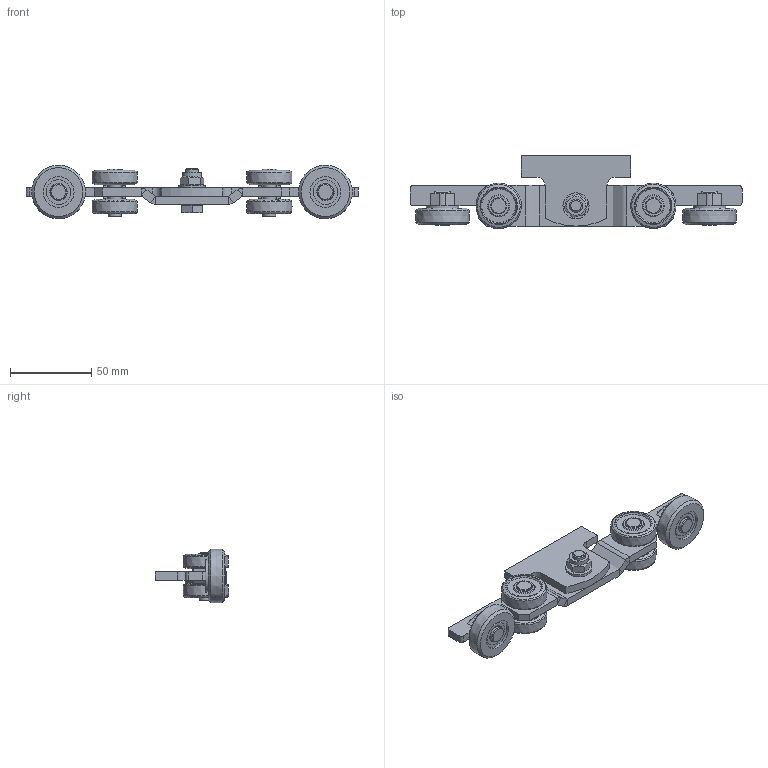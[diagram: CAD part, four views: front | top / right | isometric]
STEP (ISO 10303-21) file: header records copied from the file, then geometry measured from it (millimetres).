
FILE_DESCRIPTION(/* description */ ('Brennteil'),/* implementation_level */ '2;1');
FILE_NAME(/* name */ 'Q:\sge-ma\Produktmanagement-STB\STB\Workspace\stp\010337930.stp',/* time_stamp */ '2016-07-14T15:54:34+02:00',/* author */ ('avschreier'),/* organization */ (''),/* preprocessor_version */ 'ST-DEVELOPER v16.1',/* originating_system */ 'Autodesk Inventor 2016',/* authorisation */ '');
FILE_SCHEMA (('AUTOMOTIVE_DESIGN { 1 0 10303 214 3 1 1 }'));
Length unit declared in the file: millimetre
Products named in the file (17): 000302048; 336300010_Schweißnähte; 337000120; 000302052; 000302000; 337000281; DIN_625-6000_ZZ_en; 000302001; DIN_EN_ISO_7090-10,5_en; 336300010; DIN_EN_ISO_7090-8,4_en; DIN_EN_ISO_7040-M8_en; DIN_EN_ISO_4017-M8x22_en; 336290010; 000304011; 000303235; 010337930
Assembly tree (27 placements, depth 4):
  010337930
    000302048
    336300010
      336300010_Schweißnähte
      337000120
      000302052  x2
      000302000  x2
      000302001  x2
        337000281
        DIN_625-6000_ZZ_en
      DIN_EN_ISO_7090-10,5_en  x2
    DIN_EN_ISO_7090-8,4_en
    DIN_EN_ISO_7040-M8_en
    DIN_EN_ISO_4017-M8x22_en
    336290010  x4
    000304011  x2
    000303235  x4
Bounding box: 204 x 44.98 x 32.97 mm (x, y, z)
Volume: 67619.2 mm3; surface area: 44863.6 mm2
Topology: 29 solids, 31 shells, 571 faces, 1369 edges, 868 vertices
Faces by surface type: plane 315, cylinder 90, cone 66, bspline 46, torus 42, sphere 12
Full cylindrical faces by diameter (mm): 6.647 x1, 7.323 x1, 8 x7, 8.1 x1, 8.3 x1, 8.4 x1, 9.9 x2, 10 x4, 10.5 x2, 11.4 x1, 11.6 x1, 15.12 x8, 16 x1, 19 x2, 20 x2, 20.88 x8, 26 x4
Entity records: 11011 total; most frequent: CARTESIAN_POINT 3719, DIRECTION 1420, ORIENTED_EDGE 1368, EDGE_CURVE 684, AXIS2_PLACEMENT_3D 552, VERTEX_POINT 459, EDGE_LOOP 419, ADVANCED_FACE 323
